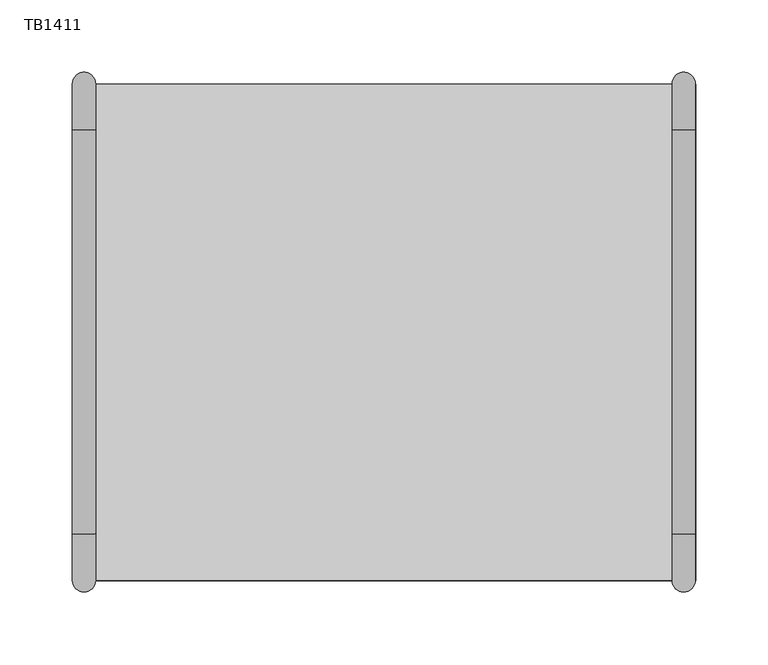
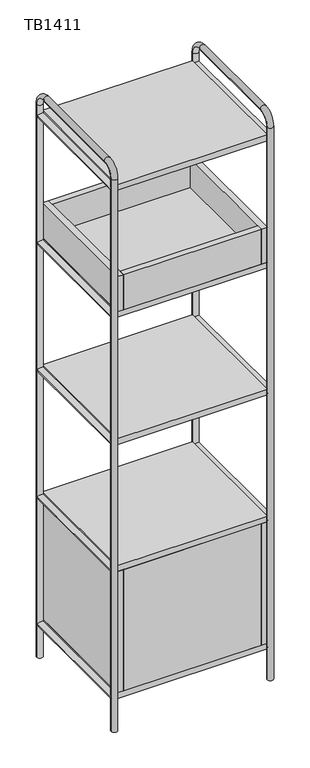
"""IFC4 building model written with IfcOpenShell, lengths in millimetres: furniture geometry, Tubbe Bookcase_4x1 : TB1411."""

from ifc_helpers import new_model, si_unit, point, frame, frame_2d, origin, place, context, project, spatial, polyline, circle_curve, ellipse_curve, trimmed, segment, composite_curve, outline, extrude, source, transform, mapped, element, save
from ifc_brep_helpers import plane_surface, cylinder_surface, revolved_surface, advanced_brep


def tb1411_903efa47(model_context):
    return source(origin(), model_context, "Body", "SolidModel", [
        advanced_brep(
        [(-215.2205547, 171.5, 0.0), (-199.2205547, 171.5, 0.0), (-215.2205547, 171.5, 1548.0), (-199.2205547, 171.5, 1548.0), (-199.2205547, 139.5, 1580.0), (-215.2205547, 139.5, 1580.0), (-215.2205547, -139.5, 1580.0), (-199.2205547, -139.5, 1580.0), (-199.2205547, -171.5, 1548.0), (-215.2205547, -171.5, 1548.0), (-215.2205547, -171.5, 0.0), (-199.2205547, -171.5, 0.0)],
        [
            (0, 1, circle_curve(frame((-207.2205547, 171.5, 0.0), z_axis=(0.0, 0.0, -1.0), x_axis=(1.0, 0.0, 0.0)), 8.0)),
            (1, 0, circle_curve(frame((-207.2205547, 171.5, 0.0), z_axis=(0.0, 0.0, -1.0), x_axis=(1.0, 0.0, 0.0)), 8.0)),
            (0, 2),
            (2, 3, circle_curve(frame((-207.2205547, 171.5, 1548.0), z_axis=(0.0, 0.0, -1.0), x_axis=(1.0, 0.0, 0.0)), 8.0)),
            (3, 1),
            (3, 2, circle_curve(frame((-207.2205547, 171.5, 1548.0), z_axis=(0.0, 0.0, -1.0), x_axis=(1.0, 0.0, 0.0)), 8.0)),
            (4, 5, circle_curve(frame((-207.2205547, 139.5, 1580.0), z_axis=(0.0, -1.0, 0.0), x_axis=(1.0, 0.0, 0.0)), 8.0)),
            (5, 6),
            (6, 7, circle_curve(frame((-207.2205547, -139.5, 1580.0), z_axis=(0.0, 1.0, 0.0), x_axis=(1.0, 0.0, 0.0)), 8.0)),
            (7, 4),
            (5, 4, circle_curve(frame((-207.2205547, 139.5, 1580.0), z_axis=(0.0, -1.0, 0.0), x_axis=(1.0, 0.0, 0.0)), 8.0)),
            (7, 6, circle_curve(frame((-207.2205547, -139.5, 1580.0), z_axis=(0.0, 1.0, 0.0), x_axis=(1.0, 0.0, 0.0)), 8.0)),
            (8, 7, circle_curve(frame((-199.2205547, -139.5, 1548.0), z_axis=(-1.0, 0.0, 0.0), x_axis=(0.0, 0.0, 1.0)), 32.0)),
            (6, 9, circle_curve(frame((-215.2205547, -139.5, 1548.0), z_axis=(1.0, 0.0, 0.0), x_axis=(0.0, 0.0, 1.0)), 32.0)),
            (9, 8, circle_curve(frame((-207.2205547, -171.5, 1548.0), z_axis=(0.0, 0.0, 1.0), x_axis=(1.0, 0.0, 0.0)), 8.0)),
            (8, 9, circle_curve(frame((-207.2205547, -171.5, 1548.0), z_axis=(0.0, 0.0, 1.0), x_axis=(1.0, 0.0, 0.0)), 8.0)),
            (10, 11, circle_curve(frame((-207.2205547, -171.5, 0.0), z_axis=(0.0, 0.0, -1.0), x_axis=(1.0, 0.0, 0.0)), 8.0)),
            (11, 10, circle_curve(frame((-207.2205547, -171.5, 0.0), z_axis=(0.0, 0.0, -1.0), x_axis=(1.0, 0.0, 0.0)), 8.0)),
            (9, 10),
            (11, 8),
            (4, 3, circle_curve(frame((-199.2205547, 139.5, 1548.0), z_axis=(-1.0, 0.0, 0.0), x_axis=(0.0, 1.0, 0.0)), 32.0)),
            (2, 5, circle_curve(frame((-215.2205547, 139.5, 1548.0), z_axis=(1.0, 0.0, 0.0), x_axis=(0.0, 1.0, 0.0)), 32.0)),
        ],
        [
            plane_surface(frame((-207.0, 171.5, 0.0), z_axis=(0.0, 0.0, -1.0), x_axis=(1.0, 0.0, 0.0))),
            cylinder_surface(frame((-207.2205547, 171.5, 0.0), z_axis=(0.0, 0.0, -1.0), x_axis=(1.0, 0.0, 0.0)), 8.0),
            cylinder_surface(frame((-207.2205547, 139.5, 1580.0), z_axis=(0.0, 1.0, 0.0), x_axis=(1.0, 0.0, 0.0)), 8.0),
            revolved_surface(trimmed(ellipse_curve(frame((-207.2205547, -139.5, 1580.0), z_axis=(0.0, 1.0, 0.0), x_axis=(1.0, 0.0, 0.0)), 8.0, 8.0), [point((-215.2205547, -139.5, 1580.0))], [point((-199.2205547, -139.5, 1580.0))], True, "CARTESIAN"), (-207.0, -139.5, 1548.0), (1.0, 0.0, 0.0)),
            revolved_surface(trimmed(ellipse_curve(frame((-207.2205547, -139.5, 1580.0), z_axis=(0.0, 1.0, 0.0), x_axis=(1.0, 0.0, 0.0)), 8.0, 8.0), [point((-199.2205547, -139.5, 1580.0))], [point((-215.2205547, -139.5, 1580.0))], True, "CARTESIAN"), (-207.0, -139.5, 1548.0), (1.0, 0.0, 0.0)),
            plane_surface(frame((-207.0, -171.5, 0.0), z_axis=(0.0, 0.0, -1.0), x_axis=(1.0, 0.0, 0.0))),
            cylinder_surface(frame((-207.2205547, -171.5, 1548.0), z_axis=(0.0, 0.0, 1.0), x_axis=(1.0, 0.0, 0.0)), 8.0),
            revolved_surface(trimmed(ellipse_curve(frame((-207.2205547, 171.5, 1548.0), z_axis=(0.0, 0.0, -1.0), x_axis=(1.0, 0.0, 0.0)), 8.0, 8.0), [point((-215.2205547, 171.5, 1548.0))], [point((-199.2205547, 171.5, 1548.0))], True, "CARTESIAN"), (-207.0, 139.5, 1548.0), (1.0, 0.0, 0.0)),
            revolved_surface(trimmed(ellipse_curve(frame((-207.2205547, 171.5, 1548.0), z_axis=(0.0, 0.0, -1.0), x_axis=(1.0, 0.0, 0.0)), 8.0, 8.0), [point((-199.2205547, 171.5, 1548.0))], [point((-215.2205547, 171.5, 1548.0))], True, "CARTESIAN"), (-207.0, 139.5, 1548.0), (1.0, 0.0, 0.0)),
        ],
        [
            (0, [[1, 2]]),
            (1, [[-1, 3, 4, 5]]),
            (1, [[-2, -5, 6, -3]]),
            (2, [[7, 8, 9, 10]]),
            (2, [[11, -10, 12, -8]]),
            (3, [[13, -9, 14, 15]]),
            (4, [[-14, -12, -13, 16]]),
            (5, [[17, 18]]),
            (6, [[-15, 19, -18, 20]]),
            (6, [[-16, -20, -17, -19]]),
            (7, [[21, -4, 22, -7]]),
            (8, [[-22, -6, -21, -11]]),
        ],
    ),
        extrude(outline(composite_curve([segment(trimmed(circle_curve(frame_2d((806.0, -207.0)), 8.0), [point((806.0, -215.0))], [point((806.0, -199.0))], False, "CARTESIAN"), True, "CONTINUOUS"), segment(trimmed(circle_curve(frame_2d((806.0, -207.0)), 8.0), [point((806.0, -199.0))], [point((806.0, -215.0))], False, "CARTESIAN"), True, "CONTINUOUS")], self_intersect=False)), frame((0.0, -171.5, 0.0), z_axis=(0.0, 1.0, 0.0), x_axis=(0.0, 0.0, 1.0)), (0.0, 0.0, 1.0), 343.0),
        extrude(outline(composite_curve([segment(trimmed(circle_curve(frame_2d((450.0, -207.0)), 8.0), [point((450.0, -215.0))], [point((450.0, -199.0))], False, "CARTESIAN"), True, "CONTINUOUS"), segment(trimmed(circle_curve(frame_2d((450.0, -207.0)), 8.0), [point((450.0, -199.0))], [point((450.0, -215.0))], False, "CARTESIAN"), True, "CONTINUOUS")], self_intersect=False)), frame((0.0, -171.5, 0.0), z_axis=(0.0, 1.0, 0.0), x_axis=(0.0, 0.0, 1.0)), (0.0, 0.0, 1.0), 343.0),
        extrude(outline(composite_curve([segment(trimmed(circle_curve(frame_2d((94.0, -207.0)), 8.0), [point((94.0, -215.0))], [point((94.0, -199.0))], False, "CARTESIAN"), True, "CONTINUOUS"), segment(trimmed(circle_curve(frame_2d((94.0, -207.0)), 8.0), [point((94.0, -199.0))], [point((94.0, -215.0))], False, "CARTESIAN"), True, "CONTINUOUS")], self_intersect=False)), frame((0.0, -171.5, 0.0), z_axis=(0.0, 1.0, 0.0), x_axis=(0.0, 0.0, 1.0)), (0.0, 0.0, 1.0), 343.0),
        extrude(outline(composite_curve([segment(trimmed(circle_curve(frame_2d((1518.0, -207.0)), 8.0), [point((1518.0, -215.0))], [point((1518.0, -199.0))], False, "CARTESIAN"), True, "CONTINUOUS"), segment(trimmed(circle_curve(frame_2d((1518.0, -207.0)), 8.0), [point((1518.0, -199.0))], [point((1518.0, -215.0))], False, "CARTESIAN"), True, "CONTINUOUS")], self_intersect=False)), frame((0.0, -171.5, 0.0), z_axis=(0.0, 1.0, 0.0), x_axis=(0.0, 0.0, 1.0)), (0.0, 0.0, 1.0), 343.0),
        extrude(outline(composite_curve([segment(trimmed(circle_curve(frame_2d((1162.0, -207.0)), 8.0), [point((1162.0, -215.0))], [point((1162.0, -199.0))], False, "CARTESIAN"), True, "CONTINUOUS"), segment(trimmed(circle_curve(frame_2d((1162.0, -207.0)), 8.0), [point((1162.0, -199.0))], [point((1162.0, -215.0))], False, "CARTESIAN"), True, "CONTINUOUS")], self_intersect=False)), frame((0.0, -171.5, 0.0), z_axis=(0.0, 1.0, 0.0), x_axis=(0.0, 0.0, 1.0)), (0.0, 0.0, 1.0), 343.0),
        extrude(outline(polyline([(183.0, 155.5), (183.0, -155.5), (-183.0, -155.5), (-183.0, 155.5), (183.0, 155.5)])), frame((0.0, 0.0, 1170.0), z_axis=(0.0, 0.0, 1.0), x_axis=(1.0, 0.0, 0.0)), (0.0, 0.0, 1.0), 16.0),
        extrude(outline(polyline([(183.0, -171.5), (-183.0, -171.5), (-183.0, -155.5), (183.0, -155.5), (183.0, -171.5)])), frame((0.0, 0.0, 1170.0), z_axis=(0.0, 0.0, 1.0), x_axis=(1.0, 0.0, 0.0)), (0.0, 0.0, 1.0), 98.0),
        extrude(outline(polyline([(183.0, 155.5), (-183.0, 155.5), (-183.0, 171.5), (183.0, 171.5), (183.0, 155.5)])), frame((0.0, 0.0, 1170.0), z_axis=(0.0, 0.0, 1.0), x_axis=(1.0, 0.0, 0.0)), (0.0, 0.0, 1.0), 98.0),
        extrude(outline(polyline([(199.0, 171.5), (199.0, -171.5), (183.0, -171.5), (183.0, 171.5), (199.0, 171.5)])), frame((0.0, 0.0, 1170.0), z_axis=(0.0, 0.0, 1.0), x_axis=(1.0, 0.0, 0.0)), (0.0, 0.0, 1.0), 98.0),
        extrude(outline(polyline([(-183.0, 171.5), (-183.0, -171.5), (-199.0, -171.5), (-199.0, 171.5), (-183.0, 171.5)])), frame((0.0, 0.0, 1170.0), z_axis=(0.0, 0.0, 1.0), x_axis=(1.0, 0.0, 0.0)), (0.0, 0.0, 1.0), 98.0),
        extrude(outline(polyline([(183.0, -171.5), (-183.0, -171.5), (-183.0, -155.5), (183.0, -155.5), (183.0, -171.5)])), frame((0.0, 0.0, 102.0), z_axis=(0.0, 0.0, 1.0), x_axis=(1.0, 0.0, 0.0)), (0.0, 0.0, 1.0), 340.0),
        extrude(outline(polyline([(183.0, 155.5), (-183.0, 155.5), (-183.0, 171.5), (183.0, 171.5), (183.0, 155.5)])), frame((0.0, 0.0, 102.0), z_axis=(0.0, 0.0, 1.0), x_axis=(1.0, 0.0, 0.0)), (0.0, 0.0, 1.0), 340.0),
        extrude(outline(polyline([(199.0, 171.5), (199.0, -171.5), (183.0, -171.5), (183.0, 171.5), (199.0, 171.5)])), frame((0.0, 0.0, 102.0), z_axis=(0.0, 0.0, 1.0), x_axis=(1.0, 0.0, 0.0)), (0.0, 0.0, 1.0), 340.0),
        extrude(outline(polyline([(-183.0, 171.5), (-183.0, -171.5), (-199.0, -171.5), (-199.0, 171.5), (-183.0, 171.5)])), frame((0.0, 0.0, 102.0), z_axis=(0.0, 0.0, 1.0), x_axis=(1.0, 0.0, 0.0)), (0.0, 0.0, 1.0), 340.0),
        extrude(outline(polyline([(199.0, 171.5), (199.0, -171.5), (-199.0, -171.5), (-199.0, 171.5), (199.0, 171.5)])), frame((0.0, 0.0, 1510.0), z_axis=(0.0, 0.0, 1.0), x_axis=(1.0, 0.0, 0.0)), (0.0, 0.0, 1.0), 16.0),
        extrude(outline(polyline([(199.0, 171.5), (199.0, -171.5), (-199.0, -171.5), (-199.0, 171.5), (199.0, 171.5)])), frame((0.0, 0.0, 1154.0), z_axis=(0.0, 0.0, 1.0), x_axis=(1.0, 0.0, 0.0)), (0.0, 0.0, 1.0), 16.0),
        extrude(outline(polyline([(199.0, 171.5), (199.0, -171.5), (-199.0, -171.5), (-199.0, 171.5), (199.0, 171.5)])), frame((0.0, 0.0, 798.0), z_axis=(0.0, 0.0, 1.0), x_axis=(1.0, 0.0, 0.0)), (0.0, 0.0, 1.0), 16.0),
        extrude(outline(polyline([(199.0, 171.5), (199.0, -171.5), (-199.0, -171.5), (-199.0, 171.5), (199.0, 171.5)])), frame((0.0, 0.0, 442.0), z_axis=(0.0, 0.0, 1.0), x_axis=(1.0, 0.0, 0.0)), (0.0, 0.0, 1.0), 16.0),
        extrude(outline(polyline([(199.0, 171.5), (199.0, -171.5), (-199.0, -171.5), (-199.0, 171.5), (199.0, 171.5)])), frame((0.0, 0.0, 86.0), z_axis=(0.0, 0.0, 1.0), x_axis=(1.0, 0.0, 0.0)), (0.0, 0.0, 1.0), 16.0),
        advanced_brep(
        [(198.7794453, 171.5, 0.0), (214.7794453, 171.5, 0.0), (198.7794453, 171.5, 1548.0), (214.7794453, 171.5, 1548.0), (214.7794453, 139.5, 1580.0), (198.7794453, 139.5, 1580.0), (198.7794453, -139.5, 1580.0), (214.7794453, -139.5, 1580.0), (214.7794453, -171.5, 1548.0), (198.7794453, -171.5, 1548.0), (198.7794453, -171.5, 0.0), (214.7794453, -171.5, 0.0)],
        [
            (0, 1, circle_curve(frame((206.7794453, 171.5, 0.0), z_axis=(0.0, 0.0, -1.0), x_axis=(1.0, 0.0, 0.0)), 8.0)),
            (1, 0, circle_curve(frame((206.7794453, 171.5, 0.0), z_axis=(0.0, 0.0, -1.0), x_axis=(1.0, 0.0, 0.0)), 8.0)),
            (0, 2),
            (2, 3, circle_curve(frame((206.7794453, 171.5, 1548.0), z_axis=(0.0, 0.0, -1.0), x_axis=(1.0, 0.0, 0.0)), 8.0)),
            (3, 1),
            (3, 2, circle_curve(frame((206.7794453, 171.5, 1548.0), z_axis=(0.0, 0.0, -1.0), x_axis=(1.0, 0.0, 0.0)), 8.0)),
            (4, 5, circle_curve(frame((206.7794453, 139.5, 1580.0), z_axis=(0.0, -1.0, 0.0), x_axis=(1.0, 0.0, 0.0)), 8.0)),
            (5, 6),
            (6, 7, circle_curve(frame((206.7794453, -139.5, 1580.0), z_axis=(0.0, 1.0, 0.0), x_axis=(1.0, 0.0, 0.0)), 8.0)),
            (7, 4),
            (5, 4, circle_curve(frame((206.7794453, 139.5, 1580.0), z_axis=(0.0, -1.0, 0.0), x_axis=(1.0, 0.0, 0.0)), 8.0)),
            (7, 6, circle_curve(frame((206.7794453, -139.5, 1580.0), z_axis=(0.0, 1.0, 0.0), x_axis=(1.0, 0.0, 0.0)), 8.0)),
            (8, 7, circle_curve(frame((214.7794453, -139.5, 1548.0), z_axis=(-1.0, 0.0, 0.0), x_axis=(0.0, 0.0, 1.0)), 32.0)),
            (6, 9, circle_curve(frame((198.7794453, -139.5, 1548.0), z_axis=(1.0, 0.0, 0.0), x_axis=(0.0, 0.0, 1.0)), 32.0)),
            (9, 8, circle_curve(frame((206.7794453, -171.5, 1548.0), z_axis=(0.0, 0.0, 1.0), x_axis=(1.0, 0.0, 0.0)), 8.0)),
            (8, 9, circle_curve(frame((206.7794453, -171.5, 1548.0), z_axis=(0.0, 0.0, 1.0), x_axis=(1.0, 0.0, 0.0)), 8.0)),
            (10, 11, circle_curve(frame((206.7794453, -171.5, 0.0), z_axis=(0.0, 0.0, -1.0), x_axis=(1.0, 0.0, 0.0)), 8.0)),
            (11, 10, circle_curve(frame((206.7794453, -171.5, 0.0), z_axis=(0.0, 0.0, -1.0), x_axis=(1.0, 0.0, 0.0)), 8.0)),
            (9, 10),
            (11, 8),
            (4, 3, circle_curve(frame((214.7794453, 139.5, 1548.0), z_axis=(-1.0, 0.0, 0.0), x_axis=(0.0, 1.0, 0.0)), 32.0)),
            (2, 5, circle_curve(frame((198.7794453, 139.5, 1548.0), z_axis=(1.0, 0.0, 0.0), x_axis=(0.0, 1.0, 0.0)), 32.0)),
        ],
        [
            plane_surface(frame((207.0, 171.5, 0.0), z_axis=(0.0, 0.0, -1.0), x_axis=(1.0, 0.0, 0.0))),
            cylinder_surface(frame((206.7794453, 171.5, 0.0), z_axis=(0.0, 0.0, -1.0), x_axis=(1.0, 0.0, 0.0)), 8.0),
            cylinder_surface(frame((206.7794453, 139.5, 1580.0), z_axis=(0.0, 1.0, 0.0), x_axis=(1.0, 0.0, 0.0)), 8.0),
            revolved_surface(trimmed(ellipse_curve(frame((206.7794453, -139.5, 1580.0), z_axis=(0.0, 1.0, 0.0), x_axis=(1.0, 0.0, 0.0)), 8.0, 8.0), [point((198.7794453, -139.5, 1580.0))], [point((214.7794453, -139.5, 1580.0))], True, "CARTESIAN"), (207.0, -139.5, 1548.0), (1.0, 0.0, 0.0)),
            revolved_surface(trimmed(ellipse_curve(frame((206.7794453, -139.5, 1580.0), z_axis=(0.0, 1.0, 0.0), x_axis=(1.0, 0.0, 0.0)), 8.0, 8.0), [point((214.7794453, -139.5, 1580.0))], [point((198.7794453, -139.5, 1580.0))], True, "CARTESIAN"), (207.0, -139.5, 1548.0), (1.0, 0.0, 0.0)),
            plane_surface(frame((207.0, -171.5, 0.0), z_axis=(0.0, 0.0, -1.0), x_axis=(1.0, 0.0, 0.0))),
            cylinder_surface(frame((206.7794453, -171.5, 1548.0), z_axis=(0.0, 0.0, 1.0), x_axis=(1.0, 0.0, 0.0)), 8.0),
            revolved_surface(trimmed(ellipse_curve(frame((206.7794453, 171.5, 1548.0), z_axis=(0.0, 0.0, -1.0), x_axis=(1.0, 0.0, 0.0)), 8.0, 8.0), [point((198.7794453, 171.5, 1548.0))], [point((214.7794453, 171.5, 1548.0))], True, "CARTESIAN"), (207.0, 139.5, 1548.0), (1.0, 0.0, 0.0)),
            revolved_surface(trimmed(ellipse_curve(frame((206.7794453, 171.5, 1548.0), z_axis=(0.0, 0.0, -1.0), x_axis=(1.0, 0.0, 0.0)), 8.0, 8.0), [point((214.7794453, 171.5, 1548.0))], [point((198.7794453, 171.5, 1548.0))], True, "CARTESIAN"), (207.0, 139.5, 1548.0), (1.0, 0.0, 0.0)),
        ],
        [
            (0, [[1, 2]]),
            (1, [[-1, 3, 4, 5]]),
            (1, [[-2, -5, 6, -3]]),
            (2, [[7, 8, 9, 10]]),
            (2, [[11, -10, 12, -8]]),
            (3, [[13, -9, 14, 15]]),
            (4, [[-14, -12, -13, 16]]),
            (5, [[17, 18]]),
            (6, [[-15, 19, -18, 20]]),
            (6, [[-16, -20, -17, -19]]),
            (7, [[21, -4, 22, -7]]),
            (8, [[-22, -6, -21, -11]]),
        ],
    ),
        extrude(outline(composite_curve([segment(trimmed(circle_curve(frame_2d((806.0, 207.0)), 8.0), [point((806.0, 199.0))], [point((806.0, 215.0))], False, "CARTESIAN"), True, "CONTINUOUS"), segment(trimmed(circle_curve(frame_2d((806.0, 207.0)), 8.0), [point((806.0, 215.0))], [point((806.0, 199.0))], False, "CARTESIAN"), True, "CONTINUOUS")], self_intersect=False)), frame((0.0, -171.5, 0.0), z_axis=(0.0, 1.0, 0.0), x_axis=(0.0, 0.0, 1.0)), (0.0, 0.0, 1.0), 343.0),
        extrude(outline(composite_curve([segment(trimmed(circle_curve(frame_2d((450.0, 207.0)), 8.0), [point((450.0, 199.0))], [point((450.0, 215.0))], False, "CARTESIAN"), True, "CONTINUOUS"), segment(trimmed(circle_curve(frame_2d((450.0, 207.0)), 8.0), [point((450.0, 215.0))], [point((450.0, 199.0))], False, "CARTESIAN"), True, "CONTINUOUS")], self_intersect=False)), frame((0.0, -171.5, 0.0), z_axis=(0.0, 1.0, 0.0), x_axis=(0.0, 0.0, 1.0)), (0.0, 0.0, 1.0), 343.0),
        extrude(outline(composite_curve([segment(trimmed(circle_curve(frame_2d((94.0, 207.0)), 8.0), [point((94.0, 199.0))], [point((94.0, 215.0))], False, "CARTESIAN"), True, "CONTINUOUS"), segment(trimmed(circle_curve(frame_2d((94.0, 207.0)), 8.0), [point((94.0, 215.0))], [point((94.0, 199.0))], False, "CARTESIAN"), True, "CONTINUOUS")], self_intersect=False)), frame((0.0, -171.5, 0.0), z_axis=(0.0, 1.0, 0.0), x_axis=(0.0, 0.0, 1.0)), (0.0, 0.0, 1.0), 343.0),
        extrude(outline(composite_curve([segment(trimmed(circle_curve(frame_2d((1518.0, 207.0)), 8.0), [point((1518.0, 199.0))], [point((1518.0, 215.0))], False, "CARTESIAN"), True, "CONTINUOUS"), segment(trimmed(circle_curve(frame_2d((1518.0, 207.0)), 8.0), [point((1518.0, 215.0))], [point((1518.0, 199.0))], False, "CARTESIAN"), True, "CONTINUOUS")], self_intersect=False)), frame((0.0, -171.5, 0.0), z_axis=(0.0, 1.0, 0.0), x_axis=(0.0, 0.0, 1.0)), (0.0, 0.0, 1.0), 343.0),
        extrude(outline(composite_curve([segment(trimmed(circle_curve(frame_2d((1162.0, 207.0)), 8.0), [point((1162.0, 199.0))], [point((1162.0, 215.0))], False, "CARTESIAN"), True, "CONTINUOUS"), segment(trimmed(circle_curve(frame_2d((1162.0, 207.0)), 8.0), [point((1162.0, 215.0))], [point((1162.0, 199.0))], False, "CARTESIAN"), True, "CONTINUOUS")], self_intersect=False)), frame((0.0, -171.5, 0.0), z_axis=(0.0, 1.0, 0.0), x_axis=(0.0, 0.0, 1.0)), (0.0, 0.0, 1.0), 343.0),
    ])


if __name__ == "__main__":
    model = new_model("IFC4")
    model_context = context("Model", 3, world=origin())
    ifc_project = project(units=[si_unit("LENGTHUNIT", "METRE", prefix="MILLI")], contexts=[model_context])
    site = spatial("IfcSite", under=ifc_project)
    building = spatial("IfcBuilding", under=site)
    placement = place(None, origin())
    tb1411_shape = tb1411_903efa47(model_context)
    element("IfcFurniture", 1, ObjectType="Tubbe Bookcase_4x1 : TB1411", at=placement, inside=building, context=model_context, shape_type="MappedRepresentation", body=[
        mapped(tb1411_shape, transform((0.0, 0.0, 0.0), x_axis=(1.0, 0.0, 0.0), y_axis=(0.0, 1.0, 0.0), z_axis=(0.0, 0.0, 1.0))),
    ])
    save(model, "model.ifc")
